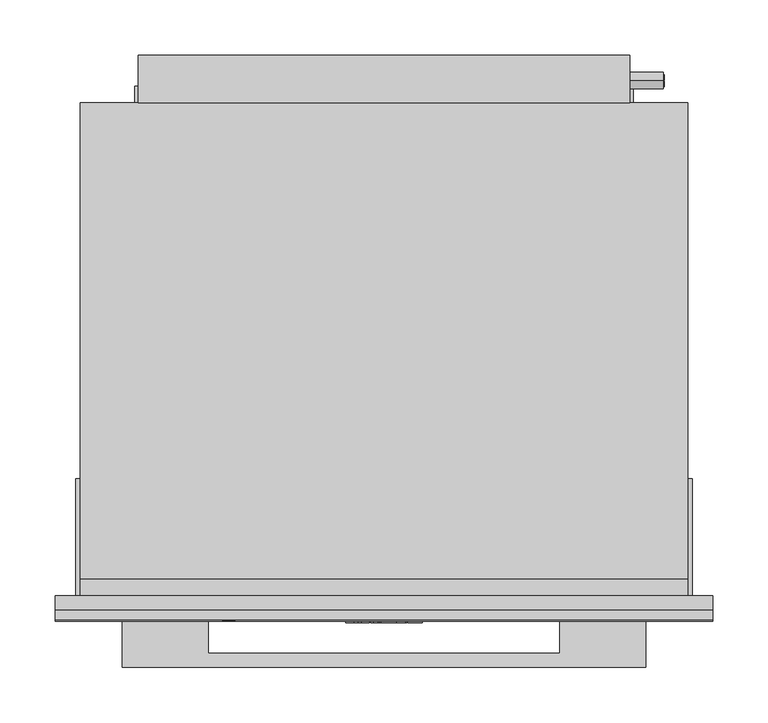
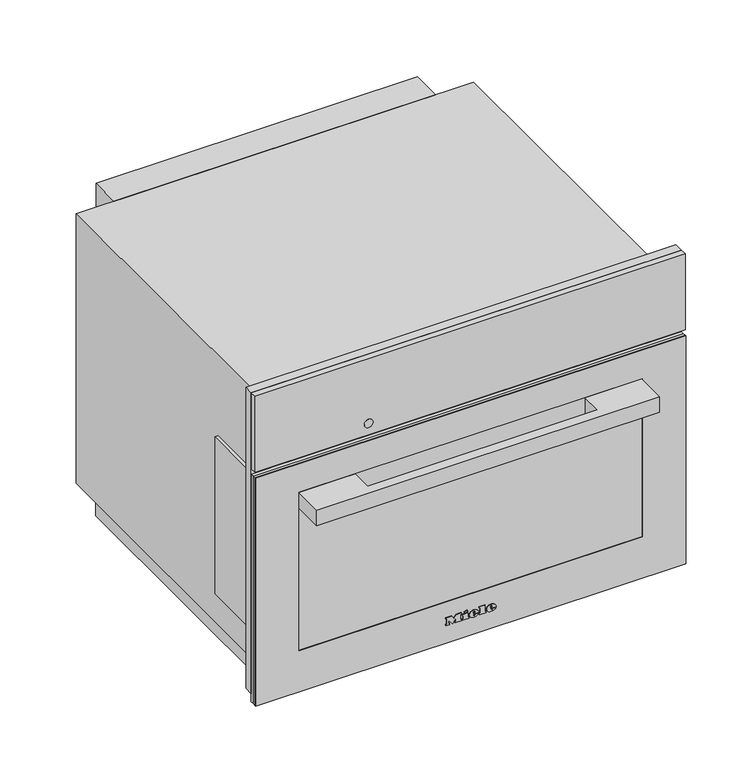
"""IFC4 building model written with IfcOpenShell, lengths in millimetres: proxy geometry, 11099970_EU1_M7140TC_EDST-CLST : 24714040_EU1_11099970_M7140TC_EDST-CLST."""

from ifc_helpers import new_model, si_unit, point, frame, frame_2d, origin, origin_with_axes, place, context, project, spatial, polyline, circle_curve, ellipse_curve, trimmed, segment, composite_curve, outline, extrude, faceted_brep, source, transform, mapped, element, save
from ifc_brep_helpers import plane_surface, cylinder_surface, revolved_surface, extruded_surface, advanced_brep


def specialty_equipment_9b4e9018(model_context):
    return source(origin(), model_context, "Body", "SolidModel", [
        extrude(outline(polyline([(456.0, 297.5), (456.0, -297.5), (16.0, -297.5), (16.0, 297.5), (456.0, 297.5)]), holes=[polyline([(347.0, -270.0), (347.0, 270.0), (40.0, 270.0), (40.0, -270.0), (347.0, -270.0)])]), frame((0.0, -13.0, 0.0), z_axis=(0.0, 1.0, 0.0), x_axis=(0.0, 0.0, 1.0)), (0.0, 0.0, 1.0), 13.0),
        extrude(outline(composite_curve([segment(trimmed(circle_curve(frame_2d((251.5, 37.5)), 10.5), [point((251.5, 27.0))], [point((251.5, 48.0))], False, "CARTESIAN"), True, "CONTINUOUS"), segment(trimmed(circle_curve(frame_2d((251.5, 37.5)), 10.5), [point((251.5, 48.0))], [point((251.5, 27.0))], False, "CARTESIAN"), True, "CONTINUOUS")], self_intersect=False)), origin_with_axes(), (0.0, 0.0, 1.0), 3.0),
        extrude(outline(composite_curve([segment(trimmed(circle_curve(frame_2d((251.5, 397.5)), 10.5), [point((251.5, 387.0))], [point((251.5, 408.0))], False, "CARTESIAN"), True, "CONTINUOUS"), segment(trimmed(circle_curve(frame_2d((251.5, 397.5)), 10.5), [point((251.5, 408.0))], [point((251.5, 387.0))], False, "CARTESIAN"), True, "CONTINUOUS")], self_intersect=False)), origin_with_axes(), (0.0, 0.0, 1.0), 3.0),
        extrude(outline(composite_curve([segment(trimmed(circle_curve(frame_2d((-251.5, 397.5)), 10.5), [point((-251.5, 387.0))], [point((-251.5, 408.0))], False, "CARTESIAN"), True, "CONTINUOUS"), segment(trimmed(circle_curve(frame_2d((-251.5, 397.5)), 10.5), [point((-251.5, 408.0))], [point((-251.5, 387.0))], False, "CARTESIAN"), True, "CONTINUOUS")], self_intersect=False)), origin_with_axes(), (0.0, 0.0, 1.0), 3.0),
        extrude(outline(composite_curve([segment(trimmed(circle_curve(frame_2d((-251.5, 37.5)), 10.5), [point((-251.5, 27.0))], [point((-251.5, 48.0))], False, "CARTESIAN"), True, "CONTINUOUS"), segment(trimmed(circle_curve(frame_2d((-251.5, 37.5)), 10.5), [point((-251.5, 48.0))], [point((-251.5, 27.0))], False, "CARTESIAN"), True, "CONTINUOUS")], self_intersect=False)), origin_with_axes(), (0.0, 0.0, 1.0), 3.0),
        extrude(outline(polyline([(115.0, 330.0), (115.0, 130.0), (-115.0, 130.0), (-115.0, 330.0), (115.0, 330.0)])), frame((0.0, 0.0, 11.0), z_axis=(0.0, 0.0, 1.0), x_axis=(1.0, 0.0, 0.0)), (0.0, 0.0, 1.0), 26.0),
        extrude(outline(composite_curve([segment(trimmed(circle_curve(frame_2d((466.0, 369.0)), 7.5), [point((466.0, 361.5))], [point((466.0, 376.5))], False, "CARTESIAN"), True, "CONTINUOUS"), segment(trimmed(circle_curve(frame_2d((466.0, 369.0)), 7.5), [point((466.0, 376.5))], [point((466.0, 361.5))], False, "CARTESIAN"), True, "CONTINUOUS")], self_intersect=False)), frame((222.5, 0.0, 0.0), z_axis=(1.0, 0.0, 0.0), x_axis=(0.0, 1.0, 0.0)), (0.0, 0.0, 1.0), 30.0),
        extrude(outline(polyline([(-222.5, 489.0), (222.5, 489.0), (222.5, 446.0), (-222.5, 446.0), (-222.5, 489.0)])), frame((0.0, 0.0, 316.0), z_axis=(0.0, 0.0, 1.0), x_axis=(1.0, 0.0, 0.0)), (0.0, 0.0, 1.0), 115.0),
        extrude(outline(polyline([(275.0, 0.0), (275.0, 106.0), (279.0, 106.0), (279.0, 0.0), (275.0, 0.0)])), frame((0.0, 0.0, 83.2054686), z_axis=(0.0, 0.0, 1.0), x_axis=(1.0, 0.0, 0.0)), (0.0, 0.0, 1.0), 230.0),
        extrude(outline(polyline([(-279.0, 0.0), (-279.0, 106.0), (-275.0, 106.0), (-275.0, 0.0), (-279.0, 0.0)])), frame((0.0, 0.0, 83.2054686), z_axis=(0.0, 0.0, 1.0), x_axis=(1.0, 0.0, 0.0)), (0.0, 0.0, 1.0), 230.0),
        extrude(outline(polyline([(460.5132233, 374.0), (465.5132233, 374.0), (465.5132233, 373.0), (461.5132233, 373.0), (461.5132233, 369.5), (464.5132233, 369.5), (464.5132233, 368.5), (461.5132233, 368.5), (461.5132233, 365.0), (465.5132233, 365.0), (465.5132233, 364.0), (460.5132233, 364.0), (460.5132233, 374.0)])), frame((252.5, 0.0, 0.0), z_axis=(1.0, 0.0, 0.0), x_axis=(0.0, 1.0, 0.0)), (0.0, 0.0, 1.0), 1.0),
        extrude(outline(polyline([(466.5132233, 364.0), (466.5132233, 374.0), (467.5176929, 374.0), (467.5176929, 365.0), (471.5132233, 365.0), (471.5132233, 364.0), (466.5132233, 364.0)])), frame((252.5, 0.0, 0.0), z_axis=(1.0, 0.0, 0.0), x_axis=(0.0, 1.0, 0.0)), (0.0, 0.0, 1.0), 1.0),
        extrude(outline(polyline([(289.0, -225.5), (58.0, -225.5), (58.0, 0.0), (58.0, 225.5), (289.0, 225.5), (289.0, 0.0), (289.0, -225.5)])), frame((0.0, 446.0, 0.0), z_axis=(0.0, 1.0, 0.0), x_axis=(0.0, 0.0, 1.0)), (0.0, 0.0, 1.0), 15.0),
        faceted_brep([(-275.0, 446.0, 431.0), (275.0, 446.0, 431.0), (275.0, 446.0, 37.0), (-275.0, 446.0, 37.0), (-275.0, 0.0, 37.0), (-264.0, 0.0, 37.0), (-264.0, 0.0, 3.0), (-239.0, 0.0, 3.0), (-239.0, 0.0, 37.0), (239.0, 0.0, 37.0), (239.0, 0.0, 3.0), (264.0, 0.0, 3.0), (264.0, 0.0, 37.0), (275.0, 0.0, 37.0), (275.0, 0.0, 438.0), (-275.0, 0.0, 438.0), (-270.0, 0.0, 347.0), (270.0, 0.0, 347.0), (270.0, 0.0, 40.0), (-270.0, 0.0, 40.0), (-275.0, 15.0, 431.0), (275.0, 15.0, 431.0), (-275.0, 15.0, 438.0), (275.0, 15.0, 438.0), (270.0, 16.0, 347.0), (-270.0, 16.0, 347.0), (-270.0, 16.0, 40.0), (270.0, 16.0, 40.0), (225.0, 16.0, 303.0), (225.0, 16.0, 71.0), (-225.0, 16.0, 71.0), (-225.0, 16.0, 303.0), (225.0, 444.0, 303.0), (-225.0, 444.0, 303.0), (-225.0, 444.0, 71.0), (225.0, 444.0, 71.0), (-239.0, 418.0, 37.0), (-264.0, 418.0, 37.0), (264.0, 418.0, 37.0), (239.0, 418.0, 37.0), (-239.0, 418.0, 3.0), (239.0, 418.0, 3.0), (264.0, 418.0, 3.0), (-264.0, 418.0, 3.0)], [[[0, 1, 2, 3]], [[4, 5, 6, 7, 8, 9, 10, 11, 12, 13, 14, 15], [16, 17, 18, 19]], [[1, 0, 20, 21]], [[0, 3, 4, 15, 22, 20]], [[2, 1, 21, 23, 14, 13]], [[24, 25, 26, 27], [28, 29, 30, 31]], [[25, 24, 17, 16]], [[26, 25, 16, 19]], [[27, 26, 19, 18]], [[24, 27, 18, 17]], [[32, 33, 34, 35]], [[32, 35, 29, 28]], [[35, 34, 30, 29]], [[34, 33, 31, 30]], [[33, 32, 28, 31]], [[14, 23, 22, 15]], [[23, 21, 20, 22]], [[36, 37, 5, 4, 3, 2, 13, 12, 38, 39, 9, 8]], [[36, 8, 7, 40]], [[9, 39, 41, 10]], [[39, 38, 42, 41]], [[38, 12, 11, 42]], [[5, 37, 43, 6]], [[37, 36, 40, 43]], [[7, 6, 43, 40]], [[11, 10, 41, 42]]]),
        advanced_brep(
        [(27.088, -24.3, 32.7018), (27.088, -24.3, 33.8532), (34.7146, -24.3, 33.8532), (21.445, -24.3, 33.8532), (24.58, -24.3, 30.0), (34.5208, -24.3, 32.7018), (31.078, -24.3, 32.7018), (28.3648, -24.3, 31.425), (27.088, -24.3, 35.3124), (27.088, -24.3, 36.555), (29.0374, -24.3, 36.555), (29.0374, -24.3, 35.3124), (27.088, -23.3, 32.7018), (28.3648, -23.3, 31.425), (31.078, -23.3, 32.7018), (34.5208, -23.3, 32.7018), (24.58, -23.3, 30.0), (21.445, -23.3, 33.8532), (34.7146, -23.3, 33.8532), (27.088, -23.3, 33.8532), (27.088, -23.3, 35.3124), (29.0374, -23.3, 35.3124), (29.0374, -23.3, 36.555), (27.088, -23.3, 36.555)],
        [
            (0, 1),
            (1, 2),
            (2, 3, ellipse_curve(frame((28.0798, -24.3, 33.8532), z_axis=(0.0, -1.0, 0.0), x_axis=(-1.0, 0.0, 0.0)), 6.6348, 5.4834)),
            (3, 4, circle_curve(frame((25.8568622, -24.3, 34.2408), z_axis=(0.0, -1.0, 0.0), x_axis=(0.0, 0.0, -1.0)), 4.4288556)),
            (4, 5, circle_curve(frame((27.9469808, -24.3, 37.2504), z_axis=(0.0, -1.0, 0.0), x_axis=(0.0, 0.0, -1.0)), 7.9940516)),
            (5, 6),
            (6, 7, circle_curve(frame((28.9220588, -24.3, 33.762), z_axis=(0.0, 1.0, 0.0), x_axis=(0.0, 0.0, -1.0)), 2.4025208)),
            (7, 0, circle_curve(frame((28.3648, -24.3, 32.7018), z_axis=(0.0, 1.0, 0.0), x_axis=(0.0, 0.0, -1.0)), 1.2768)),
            (8, 9),
            (9, 10, circle_curve(frame((28.0627, -24.3, 36.555), z_axis=(0.0, 1.0, 0.0), x_axis=(0.0, 0.0, -1.0)), 0.9747)),
            (10, 11),
            (11, 8),
            (12, 13, circle_curve(frame((28.3648, -23.3, 32.7018), z_axis=(0.0, -1.0, 0.0), x_axis=(0.0, 0.0, -1.0)), 1.2768)),
            (13, 14, circle_curve(frame((28.9220588, -23.3, 33.762), z_axis=(0.0, -1.0, 0.0), x_axis=(0.0, 0.0, -1.0)), 2.4025208)),
            (14, 15),
            (15, 16, circle_curve(frame((27.9469808, -23.3, 37.2504), z_axis=(0.0, 1.0, 0.0), x_axis=(0.0, 0.0, -1.0)), 7.9940516)),
            (16, 17, circle_curve(frame((25.8568622, -23.3, 34.2408), z_axis=(0.0, 1.0, 0.0), x_axis=(0.0, 0.0, -1.0)), 4.4288556)),
            (17, 18, ellipse_curve(frame((28.0798, -23.3, 33.8532), z_axis=(0.0, 1.0, 0.0), x_axis=(-1.0, 0.0, 0.0)), 6.6348, 5.4834)),
            (18, 19),
            (19, 12),
            (20, 21),
            (21, 22),
            (22, 23, circle_curve(frame((28.0627, -23.3, 36.555), z_axis=(0.0, -1.0, 0.0), x_axis=(0.0, 0.0, -1.0)), 0.9747)),
            (23, 20),
            (0, 12),
            (19, 1),
            (18, 2),
            (5, 15),
            (14, 6),
            (17, 3),
            (13, 7),
            (16, 4),
            (8, 20),
            (23, 9),
            (22, 10),
            (21, 11),
        ],
        [
            plane_surface(frame((27.088, -24.3, 33.8532), z_axis=(0.0, -1.0, 0.0), x_axis=(0.0, 0.0, 1.0))),
            plane_surface(frame((27.088, -23.3, 33.8532), z_axis=(0.0, 1.0, 0.0), x_axis=(0.0, 0.0, -1.0))),
            plane_surface(frame((27.088, -24.3, 32.7018), z_axis=(1.0, 0.0, 0.0), x_axis=(0.0, 1.0, 0.0))),
            plane_surface(frame((27.088, -24.3, 33.8532), z_axis=(0.0, 0.0, -1.0), x_axis=(0.0, 1.0, 0.0))),
            plane_surface(frame((34.5208, -24.3, 32.7018), z_axis=(0.0, 0.0, 1.0), x_axis=(0.0, 1.0, 0.0))),
            extruded_surface(trimmed(ellipse_curve(frame((28.0798, -22.3, 33.8532), z_axis=(0.0, -1.0, 0.0), x_axis=(-1.0, 0.0, 0.0)), 6.6348, 5.4834), [point((34.7146, -22.3, 33.8532))], [point((21.445, -22.3, 33.8532))], True, "CARTESIAN"), (0.0, -1.0, 0.0), 1.0),
            revolved_surface(polyline([(28.9220588, -23.3, 31.3594792), (28.9220588, -24.3, 31.3594792)]), (28.9220588, -23.3, 33.762), (0.0, 1.0, 0.0)),
            revolved_surface(polyline([(28.3648, -23.3, 31.424999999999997), (28.3648, -24.3, 31.424999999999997)]), (28.3648, -23.3, 32.7018), (0.0, 1.0, 0.0)),
            cylinder_surface(frame((25.8568622, -23.3, 34.2408), z_axis=(0.0, -1.0, 0.0), x_axis=(0.0, 0.0, -1.0)), 4.4288556),
            cylinder_surface(frame((27.9469808, -23.3, 37.2504), z_axis=(0.0, -1.0, 0.0), x_axis=(0.0, 0.0, -1.0)), 7.9940516),
            plane_surface(frame((27.088, -24.3, 35.3124), z_axis=(1.0, 0.0, 0.0), x_axis=(0.0, 1.0, 0.0))),
            revolved_surface(polyline([(28.0627, -23.3, 35.5803), (28.0627, -24.3, 35.5803)]), (28.0627, -23.3, 36.555), (0.0, 1.0, 0.0)),
            plane_surface(frame((29.0374, -24.3, 36.555), z_axis=(-1.0, 0.0, 0.0), x_axis=(0.0, 1.0, 0.0))),
            plane_surface(frame((29.0374, -24.3, 35.3124), z_axis=(0.0, 0.0, 1.0), x_axis=(0.0, 1.0, 0.0))),
        ],
        [
            (0, [[1, 2, 3, 4, 5, 6, 7, 8], [9, 10, 11, 12]]),
            (1, [[13, 14, 15, 16, 17, 18, 19, 20], [21, 22, 23, 24]]),
            (2, [[-1, 25, -20, 26]]),
            (3, [[-2, -26, -19, 27]]),
            (4, [[-6, 28, -15, 29]]),
            (5, [[-3, -27, -18, 30]]),
            (6, [[-7, -29, -14, 31]]),
            (7, [[-8, -31, -13, -25]]),
            (8, [[-4, -30, -17, 32]]),
            (9, [[-5, -32, -16, -28]]),
            (10, [[-9, 33, -24, 34]]),
            (11, [[-10, -34, -23, 35]]),
            (12, [[-11, -35, -22, 36]]),
            (13, [[-12, -36, -21, -33]]),
        ],
    ),
        advanced_brep(
        [(3.2962, -24.3, 32.7018), (3.2962, -24.3, 33.8532), (10.9228, -24.3, 33.8532), (-2.3468, -24.3, 33.8532), (0.7882, -24.3, 30.0), (10.729, -24.3, 32.7018), (7.2862, -24.3, 32.7018), (4.573, -24.3, 31.425), (3.2962, -24.3, 35.3124), (3.2962, -24.3, 36.555), (5.2456, -24.3, 36.555), (5.2456, -24.3, 35.3124), (3.2962, -23.3, 32.7018), (4.573, -23.3, 31.425), (7.2862, -23.3, 32.7018), (10.729, -23.3, 32.7018), (0.7882, -23.3, 30.0), (-2.3468, -23.3, 33.8532), (10.9228, -23.3, 33.8532), (3.2962, -23.3, 33.8532), (3.2962, -23.3, 35.3124), (5.2456, -23.3, 35.3124), (5.2456, -23.3, 36.555), (3.2962, -23.3, 36.555)],
        [
            (0, 1),
            (1, 2),
            (2, 3, ellipse_curve(frame((4.288, -24.3, 33.8532), z_axis=(0.0, -1.0, 0.0), x_axis=(-1.0, 0.0, 0.0)), 6.6348, 5.4834)),
            (3, 4, circle_curve(frame((2.0650622, -24.3, 34.2408), z_axis=(0.0, -1.0, 0.0), x_axis=(0.0, 0.0, -1.0)), 4.4288556)),
            (4, 5, circle_curve(frame((4.1551808, -24.3, 37.2504), z_axis=(0.0, -1.0, 0.0), x_axis=(0.0, 0.0, -1.0)), 7.9940516)),
            (5, 6),
            (6, 7, circle_curve(frame((5.1302588, -24.3, 33.762), z_axis=(0.0, 1.0, 0.0), x_axis=(0.0, 0.0, -1.0)), 2.4025208)),
            (7, 0, circle_curve(frame((4.573, -24.3, 32.7018), z_axis=(0.0, 1.0, 0.0), x_axis=(0.0, 0.0, -1.0)), 1.2768)),
            (8, 9),
            (9, 10, circle_curve(frame((4.2709, -24.3, 36.555), z_axis=(0.0, 1.0, 0.0), x_axis=(0.0, 0.0, -1.0)), 0.9747)),
            (10, 11),
            (11, 8),
            (12, 13, circle_curve(frame((4.573, -23.3, 32.7018), z_axis=(0.0, -1.0, 0.0), x_axis=(0.0, 0.0, -1.0)), 1.2768)),
            (13, 14, circle_curve(frame((5.1302588, -23.3, 33.762), z_axis=(0.0, -1.0, 0.0), x_axis=(0.0, 0.0, -1.0)), 2.4025208)),
            (14, 15),
            (15, 16, circle_curve(frame((4.1551808, -23.3, 37.2504), z_axis=(0.0, 1.0, 0.0), x_axis=(0.0, 0.0, -1.0)), 7.9940516)),
            (16, 17, circle_curve(frame((2.0650622, -23.3, 34.2408), z_axis=(0.0, 1.0, 0.0), x_axis=(0.0, 0.0, -1.0)), 4.4288556)),
            (17, 18, ellipse_curve(frame((4.288, -23.3, 33.8532), z_axis=(0.0, 1.0, 0.0), x_axis=(-1.0, 0.0, 0.0)), 6.6348, 5.4834)),
            (18, 19),
            (19, 12),
            (20, 21),
            (21, 22),
            (22, 23, circle_curve(frame((4.2709, -23.3, 36.555), z_axis=(0.0, -1.0, 0.0), x_axis=(0.0, 0.0, -1.0)), 0.9747)),
            (23, 20),
            (0, 12),
            (19, 1),
            (18, 2),
            (5, 15),
            (14, 6),
            (17, 3),
            (13, 7),
            (16, 4),
            (8, 20),
            (23, 9),
            (22, 10),
            (21, 11),
        ],
        [
            plane_surface(frame((3.2962, -24.3, 33.8532), z_axis=(0.0, -1.0, 0.0), x_axis=(0.0, 0.0, 1.0))),
            plane_surface(frame((3.2962, -23.3, 33.8532), z_axis=(0.0, 1.0, 0.0), x_axis=(0.0, 0.0, -1.0))),
            plane_surface(frame((3.2962, -24.3, 32.7018), z_axis=(1.0, 0.0, 0.0), x_axis=(0.0, 1.0, 0.0))),
            plane_surface(frame((3.2962, -24.3, 33.8532), z_axis=(0.0, 0.0, -1.0), x_axis=(0.0, 1.0, 0.0))),
            plane_surface(frame((10.729, -24.3, 32.7018), z_axis=(0.0, 0.0, 1.0), x_axis=(0.0, 1.0, 0.0))),
            extruded_surface(trimmed(ellipse_curve(frame((4.288, -22.3, 33.8532), z_axis=(0.0, -1.0, 0.0), x_axis=(-1.0, 0.0, 0.0)), 6.6348, 5.4834), [point((10.9228, -22.3, 33.8532))], [point((-2.3468, -22.3, 33.8532))], True, "CARTESIAN"), (0.0, -1.0, 0.0), 1.0),
            revolved_surface(polyline([(5.1302588, -23.3, 31.3594792), (5.1302588, -24.3, 31.3594792)]), (5.1302588, -23.3, 33.762), (0.0, 1.0, 0.0)),
            revolved_surface(polyline([(4.573, -23.3, 31.424999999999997), (4.573, -24.3, 31.424999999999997)]), (4.573, -23.3, 32.7018), (0.0, 1.0, 0.0)),
            cylinder_surface(frame((2.0650622, -23.3, 34.2408), z_axis=(0.0, -1.0, 0.0), x_axis=(0.0, 0.0, -1.0)), 4.4288556),
            cylinder_surface(frame((4.1551808, -23.3, 37.2504), z_axis=(0.0, -1.0, 0.0), x_axis=(0.0, 0.0, -1.0)), 7.9940516),
            plane_surface(frame((3.2962, -24.3, 35.3124), z_axis=(1.0, 0.0, 0.0), x_axis=(0.0, 1.0, 0.0))),
            revolved_surface(polyline([(4.2709, -23.3, 35.5803), (4.2709, -24.3, 35.5803)]), (4.2709, -23.3, 36.555), (0.0, 1.0, 0.0)),
            plane_surface(frame((5.2456, -24.3, 36.555), z_axis=(-1.0, 0.0, 0.0), x_axis=(0.0, 1.0, 0.0))),
            plane_surface(frame((5.2456, -24.3, 35.3124), z_axis=(0.0, 0.0, 1.0), x_axis=(0.0, 1.0, 0.0))),
        ],
        [
            (0, [[1, 2, 3, 4, 5, 6, 7, 8], [9, 10, 11, 12]]),
            (1, [[13, 14, 15, 16, 17, 18, 19, 20], [21, 22, 23, 24]]),
            (2, [[-1, 25, -20, 26]]),
            (3, [[-2, -26, -19, 27]]),
            (4, [[-6, 28, -15, 29]]),
            (5, [[-3, -27, -18, 30]]),
            (6, [[-7, -29, -14, 31]]),
            (7, [[-8, -31, -13, -25]]),
            (8, [[-4, -30, -17, 32]]),
            (9, [[-5, -32, -16, -28]]),
            (10, [[-9, 33, -24, 34]]),
            (11, [[-10, -34, -23, 35]]),
            (12, [[-11, -35, -22, 36]]),
            (13, [[-12, -36, -21, -33]]),
        ],
    ),
        extrude(outline(polyline([(40.7274, -9.164), (38.8806, -8.2976), (40.6818, -4.433), (42.5286, -5.288), (40.7274, -9.164)])), frame((0.0, -24.3, 0.0), z_axis=(0.0, 1.0, 0.0), x_axis=(0.0, 0.0, 1.0)), (0.0, 0.0, 1.0), 1.0),
        extrude(outline(polyline([(38.6298, -11.9798), (36.5892, -11.9798), (36.5892, -10.6232), (31.9152, -10.6232), (31.9152, -11.9798), (30.0, -11.9798), (30.0, -2.9852), (31.9152, -2.9852), (31.9152, -4.3076), (38.6298, -4.3076), (38.6298, -11.9798)])), frame((0.0, -24.3, 0.0), z_axis=(0.0, 1.0, 0.0), x_axis=(0.0, 0.0, 1.0)), (0.0, 0.0, 1.0), 1.0),
        extrude(outline(polyline([(39.5418, 11.5612), (39.5418, 12.9292), (31.9152, 12.9292), (31.9152, 11.5612), (30.0, 11.5612), (30.0, 20.8066), (31.9152, 20.8066), (31.9152, 19.4044), (41.4, 19.4044), (41.4, 11.5612), (39.5418, 11.5612)])), frame((0.0, -24.3, 0.0), z_axis=(0.0, 1.0, 0.0), x_axis=(0.0, 0.0, 1.0)), (0.0, 0.0, 1.0), 1.0),
        extrude(outline(polyline([(39.5418, -34.7), (39.5418, -33.3206), (31.9152, -33.3206), (31.9152, -34.7), (30.0, -34.7), (30.0, -29.684), (31.9152, -29.684), (31.9152, -31.052), (36.7429247, -31.052), (30.0, -25.9562), (36.9402223, -20.8376), (31.9152, -20.8376), (31.9152, -22.2398), (30.0, -22.2398), (30.0, -13.1426), (31.9152, -13.1426), (31.9152, -14.5904), (39.5418, -14.5904), (39.5418, -13.1426), (41.4, -13.1426), (41.4, -20.0852), (37.125, -23.414), (41.4, -26.7542), (41.4, -34.7), (39.5418, -34.7)])), frame((0.0, -24.3, 0.0), z_axis=(0.0, 1.0, 0.0), x_axis=(0.0, 0.0, 1.0)), (0.0, 0.0, 1.0), 1.0),
        extrude(outline(polyline([(297.5, -22.0), (-297.5, -22.0), (-297.5, -13.0), (297.5, -13.0), (297.5, -22.0)])), frame((0.0, 0.0, 345.0), z_axis=(0.0, 0.0, 1.0), x_axis=(1.0, 0.0, 0.0)), (0.0, 0.0, 1.0), 111.0),
        extrude(outline(composite_curve([segment(trimmed(circle_curve(frame_2d((362.0, -140.5745637)), 6.0), [point((362.0, -146.5745637))], [point((362.0, -134.5745637))], False, "CARTESIAN"), True, "CONTINUOUS"), segment(trimmed(circle_curve(frame_2d((362.0, -140.5745637)), 6.0), [point((362.0, -134.5745637))], [point((362.0, -146.5745637))], False, "CARTESIAN"), True, "CONTINUOUS")], self_intersect=False)), frame((0.0, -22.5, 0.0), z_axis=(0.0, 1.0, 0.0), x_axis=(0.0, 0.0, 1.0)), (0.0, 0.0, 1.0), 1.0),
        extrude(outline(polyline([(297.5, -22.0), (-297.5, -22.0), (-297.5, -18.0), (297.5, -18.0), (297.5, -22.0)])), frame((0.0, 0.0, 4.0), z_axis=(0.0, 0.0, 1.0), x_axis=(1.0, 0.0, 0.0)), (0.0, 0.0, 1.0), 333.0),
        extrude(outline(polyline([(-159.0, -22.0), (-159.0, -52.0), (159.0, -52.0), (159.0, -22.0), (237.0, -22.0), (237.0, -65.0), (-237.0, -65.0), (-237.0, -22.0), (-159.0, -22.0)])), frame((0.0, 0.0, 272.0), z_axis=(0.0, 0.0, 1.0), x_axis=(1.0, 0.0, 0.0)), (0.0, 0.0, 1.0), 22.5),
        extrude(outline(polyline([(337.0, 297.5), (337.0, -297.5), (4.0, -297.5), (4.0, 297.5), (337.0, 297.5)]), holes=[polyline([(295.5, -237.5), (295.5, 237.5), (64.0, 237.5), (64.0, -237.5), (295.5, -237.5)])]), frame((0.0, -23.3, 0.0), z_axis=(0.0, 1.0, 0.0), x_axis=(0.0, 0.0, 1.0)), (0.0, 0.0, 1.0), 1.3),
        extrude(outline(polyline([(297.5, -18.0), (-297.5, -18.0), (-297.5, -13.0), (297.5, -13.0), (297.5, -18.0)])), frame((0.0, 0.0, 4.0), z_axis=(0.0, 0.0, 1.0), x_axis=(1.0, 0.0, 0.0)), (0.0, 0.0, 1.0), 333.0),
    ])


if __name__ == "__main__":
    model = new_model("IFC4")
    model_context = context("Model", 3, world=origin())
    ifc_project = project(units=[si_unit("LENGTHUNIT", "METRE", prefix="MILLI")], contexts=[model_context])
    site = spatial("IfcSite", under=ifc_project)
    building = spatial("IfcBuilding", under=site)
    placement = place(None, origin())
    specialty_equipment_shape = specialty_equipment_9b4e9018(model_context)
    element("IfcBuildingElementProxy", 1, Name="11099970_EU1_M7140TC_EDST-CLST : 24714040_EU1_11099970_M7140TC_EDST-CLST", ObjectType="11099970_EU1_M7140TC_EDST-CLST : 24714040_EU1_11099970_M7140TC_EDST-CLST", at=placement, inside=building, context=model_context, shape_type="MappedRepresentation", body=[
        mapped(specialty_equipment_shape, transform((0.0, 0.0, 0.0), x_axis=(1.0, 0.0, 0.0), y_axis=(0.0, 1.0, 0.0), z_axis=(0.0, 0.0, 1.0))),
    ])
    save(model, "model.ifc")
